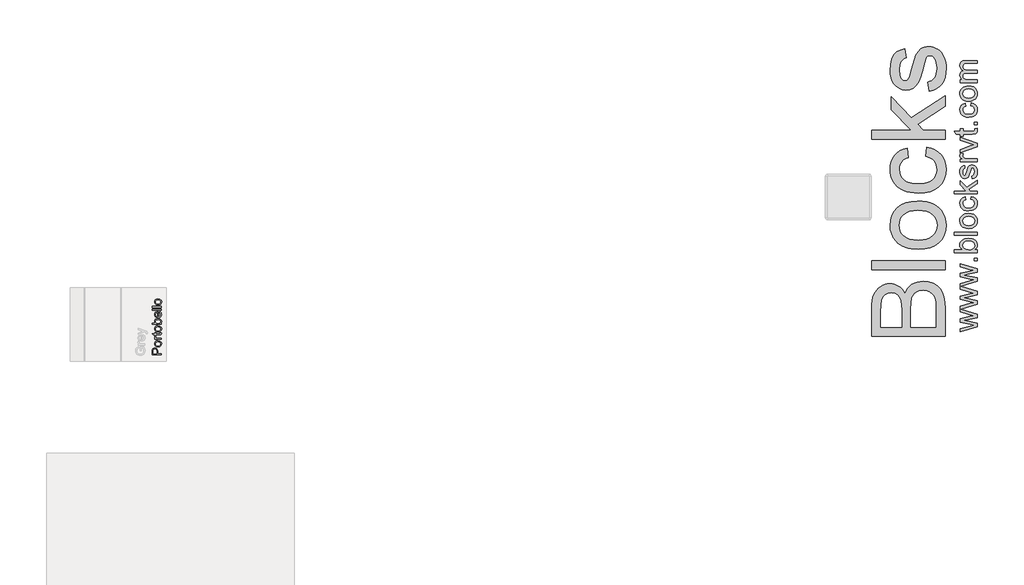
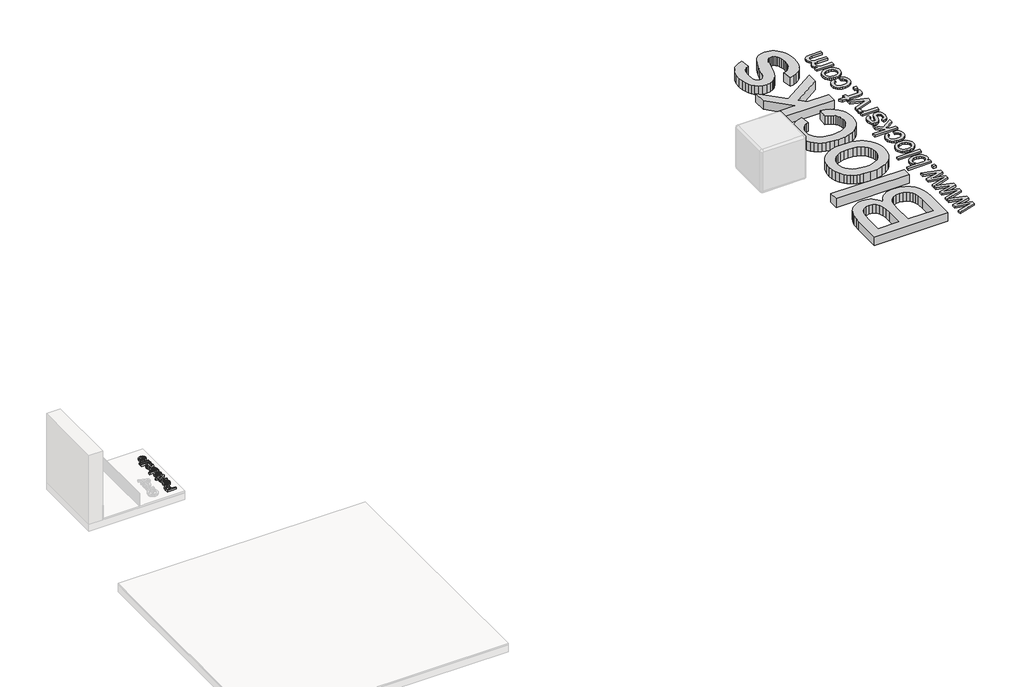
# One storey, part 8 of 8: 3 proxies.
"""IFC4 building model written with IfcOpenShell, lengths in millimetres."""

import ifcopenshell
import ifcopenshell.guid

model = None  # the IFC model being written
_history = None  # IfcOwnerHistory: only IFC2X3 demands one
_inside = {}  # id of a spatial element -> (the spatial element, [elements in it])
_under = {}  # id of a project, library or spatial element -> (it, [spatial elements below it])
_declared = {}  # id of a project -> (the project, [libraries it declares])
_typed = {}  # id of a type object -> (the type object, [elements of that type])
_made_of = {}  # id of a material, layer set ... -> (it, [elements and type objects made of it])


def new_model(schema):
    """Start an empty IFC model of exactly this schema.

    Asked for "IFC4X3", IfcOpenShell would pick the latest addendum, in which some entities
    have other attributes; the version numbers below select the first issue.
    IFC2X3 requires an IfcOwnerHistory on every rooted entity: one is made here for all.
    """
    global model, _history
    if schema == "IFC4X3":
        model = ifcopenshell.file(schema_version=(4, 3, 0, 0))
    else:
        model = ifcopenshell.file(schema=schema)
    _inside.clear()
    _under.clear()
    _declared.clear()
    _typed.clear()
    _made_of.clear()
    _history = None
    if model.schema == "IFC2X3":
        org = make("IfcOrganization", Name="unknown")
        user = make(
            "IfcPersonAndOrganization",
            ThePerson=make("IfcPerson", FamilyName="unknown"),
            TheOrganization=org,
        )
        app = make(
            "IfcApplication",
            ApplicationDeveloper=org,
            Version="unknown",
            ApplicationFullName="unknown",
            ApplicationIdentifier="unknown",
        )
        _history = make(
            "IfcOwnerHistory",
            OwningUser=user,
            OwningApplication=app,
            ChangeAction="ADDED",
            CreationDate=0,
        )
    return model


def make(cls, **values):
    """One entity of the class cls with the attributes given. An attribute that is None is left unset."""
    return model.create_entity(
        cls, **{name: value for name, value in values.items() if value is not None}
    )


def rooted(cls, **values):
    """An entity with a GlobalId (a new one), such as an element, a storey or a relation."""
    return make(cls, GlobalId=ifcopenshell.guid.new(), OwnerHistory=_history, **values)


def si_unit(unit_type, name, prefix=None):
    """IfcSIUnit, for example si_unit("LENGTHUNIT", "METRE", prefix="MILLI")."""
    return make("IfcSIUnit", UnitType=unit_type, Prefix=prefix, Name=name)


def assignment(units):
    """IfcUnitAssignment: the units of a project."""
    return None if units is None else make("IfcUnitAssignment", Units=units)


def point(xyz):
    """IfcCartesianPoint."""
    return None if xyz is None else make("IfcCartesianPoint", Coordinates=xyz)


def direction(xyz):
    """IfcDirection."""
    return None if xyz is None else make("IfcDirection", DirectionRatios=xyz)


def frame(location, z_axis=None, x_axis=None):
    """IfcAxis2Placement3D, a coordinate frame: its origin and axes. An axis left out is left unset."""
    return make(
        "IfcAxis2Placement3D",
        Location=point(location),
        Axis=direction(z_axis),
        RefDirection=direction(x_axis),
    )


def origin():
    """The frame at (0, 0, 0) with its axes left unset."""
    return frame((0.0, 0.0, 0.0))


def origin_with_axes():
    """The frame at (0, 0, 0) with the z axis (0, 0, 1) and the x axis (1, 0, 0) written out."""
    return frame((0.0, 0.0, 0.0), z_axis=(0.0, 0.0, 1.0), x_axis=(1.0, 0.0, 0.0))


def place(relative_to, where):
    """IfcLocalPlacement: puts the frame where relative to a parent placement (None: the world)."""
    return make(
        "IfcLocalPlacement", PlacementRelTo=relative_to, RelativePlacement=where
    )


def context(
    kind, dimensions, precision=None, world=None, true_north=None, identifier=None
):
    """IfcGeometricRepresentationContext, for example the 3D "Model" context."""
    return make(
        "IfcGeometricRepresentationContext",
        ContextIdentifier=identifier,
        ContextType=kind,
        CoordinateSpaceDimension=dimensions,
        Precision=precision,
        WorldCoordinateSystem=world,
        TrueNorth=true_north,
    )


def project(units=None, contexts=None):
    """IfcProject with its units and contexts."""
    return rooted(
        "IfcProject",
        Name="project",
        RepresentationContexts=contexts,
        UnitsInContext=assignment(units),
    )


def spatial(cls, under=None, at=None, **own):
    """A site, building, storey or space (cls), placed at a placement, below another one or the project."""
    s = rooted(cls, ObjectPlacement=at, **own)
    if under is not None:
        _under.setdefault(under.id(), (under, []))[1].append(s)
    return s


def polyline(points):
    """IfcPolyline through the points."""
    return make("IfcPolyline", Points=[point(p) for p in points])


def outline(outer, holes=None, kind="AREA"):
    """IfcArbitraryClosedProfileDef: a profile drawn as a closed curve; with holes, ...WithVoids."""
    if holes is None:
        return make("IfcArbitraryClosedProfileDef", ProfileType=kind, OuterCurve=outer)
    return make(
        "IfcArbitraryProfileDefWithVoids",
        ProfileType=kind,
        OuterCurve=outer,
        InnerCurves=holes,
    )


def extrude(swept, where, along, depth):
    """IfcExtrudedAreaSolid: the profile swept, set in the frame where, extruded along a direction by depth."""
    return make(
        "IfcExtrudedAreaSolid",
        SweptArea=swept,
        Position=where,
        ExtrudedDirection=direction(along),
        Depth=depth,
    )


def shape(context_of_items, identifier, shape_type, items):
    """IfcShapeRepresentation: the items that make up one representation, for example the "Body"."""
    return make(
        "IfcShapeRepresentation",
        ContextOfItems=context_of_items,
        RepresentationIdentifier=identifier,
        RepresentationType=shape_type,
        Items=items,
    )


def made_of(thing, what):
    """Note that an element or type object is made of a material, layer set ...; save() writes the relation."""
    if what is not None:
        _made_of.setdefault(what.id(), (what, []))[1].append(thing)
    return thing


def element(
    cls,
    number,
    at=None,
    inside=None,
    cuts=None,
    type_object=None,
    material=None,
    context=None,
    identifier="Body",
    shape_type=None,
    held_by="IfcProductDefinitionShape",
    body=None,
    shapes=None,
    **own,
):
    """One element of the class cls, such as IfcWall. Its Tag is "e" and its number.

    at: its placement. inside: the storey or other place that contains it. cuts: it is an
    opening in that element (IfcRelVoidsElement). A single representation is given by context,
    identifier, shape_type and body (its items); several are given by shapes. held_by: the class
    of the entity that holds the representations. save() writes the other relations.
    """
    e = rooted(cls, Tag="e%d" % number, ObjectPlacement=at, **own)
    if body is not None:
        shapes = [shape(context, identifier, shape_type, body)]
    if shapes is not None:
        e.Representation = make(held_by, Representations=shapes)
    if inside is not None:
        _inside.setdefault(inside.id(), (inside, []))[1].append(e)
    if cuts is not None:
        rooted(
            "IfcRelVoidsElement", RelatingBuildingElement=cuts, RelatedOpeningElement=e
        )
    if type_object is not None:
        _typed.setdefault(type_object.id(), (type_object, []))[1].append(e)
    return made_of(e, material)


def aggregate(whole, parts):
    """IfcRelAggregates: a whole, such as a stair, and the parts it consists of."""
    return rooted("IfcRelAggregates", RelatingObject=whole, RelatedObjects=parts)


def save(model, path):
    """Write the relations noted so far, then the file.

    IfcRelAggregates (storeys below a building ...), IfcRelContainedInSpatialStructure (elements
    in a storey), IfcRelDefinesByType, IfcRelAssociatesMaterial and IfcRelDeclares: one each for
    every whole, place, type object, material and project.
    """
    for whole, parts in _under.values():
        aggregate(whole, parts)
    for where, things in _inside.values():
        rooted(
            "IfcRelContainedInSpatialStructure",
            RelatedElements=things,
            RelatingStructure=where,
        )
    for kind, things in _typed.values():
        rooted("IfcRelDefinesByType", RelatedObjects=things, RelatingType=kind)
    for what, things in _made_of.values():
        rooted("IfcRelAssociatesMaterial", RelatedObjects=things, RelatingMaterial=what)
    for by, libraries in _declared.values():
        rooted("IfcRelDeclares", RelatingContext=by, RelatedDefinitions=libraries)
    model.write(path)


model = new_model("IFC4")

# Units and contexts
model_context = context("Model", 3, world=origin())
ifc_project = project(units=[si_unit("LENGTHUNIT", "METRE", prefix="MILLI")], contexts=[model_context])

# Site, building, storey
site = spatial("IfcSite", under=ifc_project)
building = spatial("IfcBuilding", under=site)
storey = spatial("IfcBuildingStorey", under=building, Name="PORTOBELLO - SHOWROOM", Elevation=0.0)

# Proxies
placement = place(None, origin())
element("IfcBuildingElementProxy", 1, Name="10mm Arial", ObjectType="10mm Arial", at=placement, inside=storey, context=model_context, shape_type="SweptSolid", body=[
    extrude(outline(polyline([(-4727.2594677, 9435.7402516), (-4827.7157778, 9435.7402516), (-4827.7157778, 9472.9699095), (-4826.7592846, 9487.9794949), (-4822.0626578, 9500.1809145), (-4812.3505732, 9508.0903773), (-4798.6531002, 9511.0824842), (-4786.8134313, 9509.062199), (-4776.9480625, 9503.0013431), (-4770.2893984, 9491.6675119), (-4768.0698437, 9473.8283009), (-4768.0698437, 9448.2972904), (-4727.2594677, 9448.2972904), (-4727.2594677, 9435.7402516)]), holes=[polyline([(-4780.6268824, 9448.2972904), (-4780.6268824, 9474.5640649), (-4785.2376701, 9493.0562665), (-4790.7865569, 9497.1581507), (-4798.2116418, 9498.5254455), (-4808.6104395, 9495.3003466), (-4814.3003477, 9486.826798), (-4815.158739, 9474.2697593), (-4815.158739, 9448.2972904), (-4780.6268824, 9448.2972904)])]), frame((0.0, 0.0, 18.0), z_axis=(0.0, 0.0, 1.0), x_axis=(1.0, 0.0, 0.0)), (0.0, 0.0, 1.0), 20.0),
    extrude(outline(polyline([(-4764.145769, 9523.639523), (-4781.9328635, 9526.3557184), (-4794.43472, 9534.5043046), (-4800.5599552, 9544.5720085), (-4802.6017003, 9556.6262752), (-4800.1154311, 9569.8179105), (-4792.6566237, 9580.3546639), (-4780.8138891, 9587.2616484), (-4765.1758386, 9589.5639765), (-4742.8331388, 9585.4927491), (-4730.1902609, 9573.6346862), (-4725.6898378, 9556.6262752), (-4728.1669099, 9543.2752245), (-4735.5981262, 9532.7507338), (-4747.6891811, 9525.9173257), (-4764.145769, 9523.639523)]), holes=[polyline([(-4764.1702945, 9536.1965618), (-4752.8058065, 9537.6496957), (-4744.709337, 9542.0090973), (-4739.8624917, 9548.5696596), (-4738.2468766, 9556.6262752), (-4739.8716887, 9564.6461027), (-4744.7461252, 9571.1944023), (-4752.9498937, 9575.5538039), (-4764.562702, 9577.0069378), (-4775.5960961, 9575.5446068), (-4783.5822011, 9571.1576141), (-4788.4290464, 9564.6001175), (-4790.0446615, 9556.6262752), (-4788.4351778, 9548.5696596), (-4783.6067266, 9542.0090973), (-4775.5286511, 9537.6496957), (-4764.1702945, 9536.1965618)])]), frame((0.0, 0.0, 18.0), z_axis=(0.0, 0.0, 1.0), x_axis=(1.0, 0.0, 0.0)), (0.0, 0.0, 1.0), 20.0),
    extrude(outline(polyline([(-4727.2594677, 9603.6906452), (-4801.0320704, 9603.6906452), (-4801.0320704, 9614.6780541), (-4790.1182379, 9614.6780541), (-4800.1736791, 9622.4771524), (-4802.6017003, 9630.3253016), (-4798.7266766, 9642.9313913), (-4787.4694875, 9638.7375366), (-4790.0446615, 9629.9083687), (-4787.5675894, 9622.8082462), (-4780.7004588, 9618.2832976), (-4766.03423, 9616.2476839), (-4727.2594677, 9616.2476839), (-4727.2594677, 9603.6906452)])), frame((0.0, 0.0, 18.0), z_axis=(0.0, 0.0, 1.0), x_axis=(1.0, 0.0, 0.0)), (0.0, 0.0, 1.0), 20.0),
    extrude(outline(polyline([(-4737.7318418, 9677.4632479), (-4726.8915857, 9679.0328778), (-4725.6898378, 9669.6396242), (-4727.7745025, 9659.1181991), (-4733.2436815, 9653.8697493), (-4747.4929774, 9652.3491704), (-4788.4750317, 9652.3491704), (-4788.4750317, 9642.9313913), (-4798.7266766, 9642.9313913), (-4801.0320704, 9642.9313913), (-4801.0320704, 9652.3491704), (-4818.9601863, 9652.3491704), (-4826.3423517, 9664.9062092), (-4801.0320704, 9664.9062092), (-4801.0320704, 9677.4632479), (-4788.4750317, 9677.4632479), (-4788.4750317, 9664.9062092), (-4747.8608594, 9664.9062092), (-4741.3861363, 9665.5683967), (-4739.0930052, 9667.7143751), (-4738.2468766, 9671.9940689), (-4737.7318418, 9677.4632479)])), frame((0.0, 0.0, 18.0), z_axis=(0.0, 0.0, 1.0), x_axis=(1.0, 0.0, 0.0)), (0.0, 0.0, 1.0), 20.0),
    extrude(outline(polyline([(-4764.145769, 9686.881027), (-4781.9328635, 9689.5972224), (-4794.43472, 9697.7458086), (-4800.5599552, 9707.8135125), (-4802.6017003, 9719.8677792), (-4800.1154311, 9733.0594144), (-4792.6566237, 9743.5961679), (-4780.8138891, 9750.5031524), (-4765.1758386, 9752.8054805), (-4742.8331388, 9748.7342531), (-4730.1902609, 9736.8761901), (-4725.6898378, 9719.8677792), (-4728.1669099, 9706.5167285), (-4735.5981262, 9695.9922378), (-4747.6891811, 9689.1588297), (-4764.145769, 9686.881027)]), holes=[polyline([(-4764.1702945, 9699.4380658), (-4752.8058065, 9700.8911997), (-4744.709337, 9705.2506013), (-4739.8624917, 9711.8111635), (-4738.2468766, 9719.8677792), (-4739.8716887, 9727.8876067), (-4744.7461252, 9734.4359062), (-4752.9498937, 9738.7953079), (-4764.562702, 9740.2484418), (-4775.5960961, 9738.7861108), (-4783.5822011, 9734.399118), (-4788.4290464, 9727.8416215), (-4790.0446615, 9719.8677792), (-4788.4351778, 9711.8111635), (-4783.6067266, 9705.2506013), (-4775.5286511, 9700.8911997), (-4764.1702945, 9699.4380658)])]), frame((0.0, 0.0, 18.0), z_axis=(0.0, 0.0, 1.0), x_axis=(1.0, 0.0, 0.0)), (0.0, 0.0, 1.0), 20.0),
    extrude(outline(polyline([(-4727.2594677, 9779.4891879), (-4727.2594677, 9766.9321492), (-4827.7157778, 9766.9321492), (-4827.7157778, 9779.4891879), (-4790.4615944, 9779.4891879), (-4799.5666738, 9788.2815676), (-4802.6017003, 9799.2076629), (-4799.8671108, 9811.7892271), (-4792.1783771, 9821.5503627), (-4780.2222122, 9827.5468392), (-4765.249415, 9829.717343), (-4748.4862588, 9827.4701971), (-4736.0150592, 9820.7287596), (-4728.2711432, 9810.8357996), (-4725.6898378, 9799.1340865), (-4729.0191699, 9787.9688679), (-4739.007166, 9779.4891879), (-4727.2594677, 9779.4891879)]), holes=[polyline([(-4764.6608038, 9779.4891879), (-4747.1005699, 9782.9227532), (-4740.4602999, 9789.5017096), (-4738.2468766, 9798.0549659), (-4739.8778201, 9805.3022413), (-4744.7706506, 9811.4949215), (-4752.8947114, 9815.7439585), (-4764.2193454, 9817.1603042), (-4775.7095264, 9815.8022065), (-4783.7416167, 9811.7279134), (-4788.4689003, 9805.7283712), (-4790.0446615, 9798.5945262), (-4788.413718, 9791.3472509), (-4783.5208875, 9785.1545706), (-4775.5439795, 9780.9055336), (-4764.6608038, 9779.4891879)])]), frame((0.0, 0.0, 18.0), z_axis=(0.0, 0.0, 1.0), x_axis=(1.0, 0.0, 0.0)), (0.0, 0.0, 1.0), 20.0),
    extrude(outline(polyline([(-4749.2342855, 9895.4946437), (-4747.6646557, 9907.8064278), (-4738.387898, 9903.3703841), (-4731.4533224, 9896.2917214), (-4727.130709, 9886.7298552), (-4725.6898378, 9874.8442011), (-4728.176107, 9860.1105272), (-4735.6349144, 9848.7736303), (-4747.5818822, 9841.5447491), (-4763.5326324, 9839.1351221), (-4780.0198771, 9841.5692746), (-4792.3500553, 9848.8717322), (-4800.038789, 9860.0553449), (-4802.6017003, 9874.1329625), (-4800.0449204, 9887.7721875), (-4792.3745808, 9898.6706916), (-4780.0689281, 9905.8167994), (-4763.6062088, 9908.1988353), (-4760.2216944, 9908.1252589), (-4760.2216944, 9851.6921608), (-4750.8223095, 9853.8657303), (-4743.9122593, 9858.9149107), (-4739.6632223, 9866.2020399), (-4738.2468766, 9875.0894557), (-4740.8711015, 9887.4012398), (-4749.2342855, 9895.4946437)]), holes=[polyline([(-4772.7787332, 9851.6921608), (-4772.7787332, 9895.6417965), (-4784.1585496, 9890.6140759), (-4788.5731335, 9883.2932242), (-4790.0446615, 9874.0839116), (-4785.3480347, 9858.6206051), (-4779.8573959, 9853.7553657), (-4772.7787332, 9851.6921608)])]), frame((0.0, 0.0, 18.0), z_axis=(0.0, 0.0, 1.0), x_axis=(1.0, 0.0, 0.0)), (0.0, 0.0, 1.0), 20.0),
    extrude(outline(polyline([(-4727.2594677, 9920.7558741), (-4827.7157778, 9920.7558741), (-4827.7157778, 9933.3129128), (-4727.2594677, 9933.3129128), (-4727.2594677, 9920.7558741)])), frame((0.0, 0.0, 18.0), z_axis=(0.0, 0.0, 1.0), x_axis=(1.0, 0.0, 0.0)), (0.0, 0.0, 1.0), 20.0),
    extrude(outline(polyline([(-4727.2594677, 9952.148471), (-4827.7157778, 9952.148471), (-4827.7157778, 9964.7055098), (-4727.2594677, 9964.7055098), (-4727.2594677, 9952.148471)])), frame((0.0, 0.0, 18.0), z_axis=(0.0, 0.0, 1.0), x_axis=(1.0, 0.0, 0.0)), (0.0, 0.0, 1.0), 20.0),
    extrude(outline(polyline([(-4764.145769, 9980.4018082), (-4781.9328635, 9983.1180036), (-4794.43472, 9991.2665898), (-4800.5599552, 10001.3342937), (-4802.6017003, 10013.3885605), (-4800.1154311, 10026.5801957), (-4792.6566237, 10037.1169491), (-4780.8138891, 10044.0239336), (-4765.1758386, 10046.3262618), (-4742.8331388, 10042.2550343), (-4730.1902609, 10030.3969714), (-4725.6898378, 10013.3885605), (-4728.1669099, 10000.0375097), (-4735.5981262, 9989.513019), (-4747.6891811, 9982.6796109), (-4764.145769, 9980.4018082)]), holes=[polyline([(-4764.1702945, 9992.958847), (-4752.8058065, 9994.4119809), (-4744.709337, 9998.7713825), (-4739.8624917, 10005.3319448), (-4738.2468766, 10013.3885605), (-4739.8716887, 10021.408388), (-4744.7461252, 10027.9566875), (-4752.9498937, 10032.3160891), (-4764.562702, 10033.769223), (-4775.5960961, 10032.3068921), (-4783.5822011, 10027.9198993), (-4788.4290464, 10021.3624027), (-4790.0446615, 10013.3885605), (-4788.4351778, 10005.3319448), (-4783.6067266, 9998.7713825), (-4775.5286511, 9994.4119809), (-4764.1702945, 9992.958847)])]), frame((0.0, 0.0, 18.0), z_axis=(0.0, 0.0, 1.0), x_axis=(1.0, 0.0, 0.0)), (0.0, 0.0, 1.0), 20.0),
])
element("IfcBuildingElementProxy", 2, Name="25mm Arial", ObjectType="25mm Arial", at=placement, inside=storey, context=model_context, shape_type="SweptSolid", body=[
    extrude(outline(polyline([(4168.4624087, 10236.0414216), (3990.4424262, 10181.6530028), (4168.4624087, 10127.0870374), (4168.4624087, 10089.1951919), (4060.3051021, 10065.0376075), (4026.5825859, 10058.0478496), (4168.4624087, 10026.961821), (4168.4624087, 9988.8247209), (3990.4424262, 9934.436302), (4168.4624087, 9879.8703366), (4168.4624087, 9841.9784911), (4060.3051021, 9817.8209068), (4026.5825859, 9810.8311489), (4168.4624087, 9779.7451203), (4168.4624087, 9741.6080201), (3984.0309018, 9685.2607612), (3984.0309018, 9717.8183178), (4091.6363854, 9749.701424), (4130.0800539, 9759.2050422), (4093.0465997, 9766.9918778), (3984.0309018, 9792.3144218), (3984.0309018, 9829.5931306), (4092.7400314, 9854.9156746), (4126.2786066, 9861.8441189), (4090.9006214, 9871.7769327), (3984.0309018, 9903.660039), (3984.0309018, 9932.4774619), (3984.0309018, 9936.4015366), (3984.0309018, 9965.0350185), (4091.6363854, 9996.9181248), (4130.0800539, 10006.421743), (4093.0465997, 10014.2085785), (3984.0309018, 10039.5311225), (3984.0309018, 10076.8098314), (4092.7400314, 10102.1323754), (4126.2786066, 10109.0608196), (4090.9006214, 10118.9936335), (3984.0309018, 10150.8767398), (3984.0309018, 10179.6941627), (3984.0309018, 10183.6182373), (3984.0309018, 10212.2517193), (4091.6363854, 10244.1348255), (4130.0800539, 10253.6384437), (4093.0465997, 10261.4252793), (3984.0309018, 10286.7478233), (3984.0309018, 10324.0265321), (4092.7400314, 10349.3490761), (4126.2786066, 10356.2775204), (4090.9006214, 10366.2103343), (3984.0309018, 10398.0934405), (3984.0309018, 10430.8349381), (4168.4624087, 10374.3037382), (4168.4624087, 10336.4118927), (4060.3051021, 10312.2543083), (4026.5825859, 10305.2645504), (4168.4624087, 10274.1785218), (4168.4624087, 10236.0414216)])), origin_with_axes(), (0.0, 0.0, 1.0), 20.0),
    extrude(outline(polyline([(4168.4624087, 10460.2654977), (4137.0698118, 10460.2654977), (4137.0698118, 10491.6580946), (4168.4624087, 10491.6580946), (4168.4624087, 10460.2654977)])), origin_with_axes(), (0.0, 0.0, 1.0), 20.0),
    extrude(outline(polyline([(4168.4624087, 10581.9118108), (4168.4624087, 10550.5192138), (3917.3216333, 10550.5192138), (3917.3216333, 10581.9118108), (4010.4570918, 10581.9118108), (3997.178851, 10592.2354993), (3987.6943933, 10603.89276), (3982.0037187, 10616.8835929), (3980.1068272, 10631.2079981), (3981.8159456, 10647.3794775), (3986.9433009, 10662.6619087), (3995.1669963, 10676.181572), (4006.1651352, 10687.0647477), (4036.0555473, 10702.055939), (4073.4875403, 10707.4821985), (4115.3954309, 10701.8643338), (4132.3256669, 10694.842003), (4146.57343, 10685.0107399), (4157.8666408, 10673.2097753), (4165.93322, 10660.2783399), (4170.7731675, 10646.2164339), (4172.3864833, 10631.0240571), (4170.3056508, 10616.2283031), (4164.0631532, 10603.1110107), (4153.6589905, 10591.67218), (4139.0931628, 10581.9118108), (4168.4624087, 10581.9118108)]), holes=[polyline([(4074.9590683, 10581.9118108), (4101.1400036, 10584.0577891), (4118.859653, 10590.495724), (4135.4603281, 10606.9431149), (4140.9938864, 10628.3262558), (4136.9165276, 10646.4444441), (4124.6844513, 10661.9261447), (4104.3742995, 10672.5487373), (4076.0627142, 10676.0896015), (4047.3372618, 10672.6943573), (4027.2570362, 10662.5086245), (4015.4388271, 10647.509769), (4011.4994241, 10629.6751565), (4015.5767829, 10611.5569682), (4027.8088592, 10596.0752676), (4047.751129, 10585.452675), (4074.9590683, 10581.9118108)])]), origin_with_axes(), (0.0, 0.0, 1.0), 20.0),
    extrude(outline(polyline([(4168.4624087, 10742.79887), (3917.3216333, 10742.79887), (3917.3216333, 10774.1914669), (4168.4624087, 10774.1914669), (4168.4624087, 10742.79887)])), origin_with_axes(), (0.0, 0.0, 1.0), 20.0),
    extrude(outline(polyline([(4076.2466552, 10813.4322131), (4052.3611503, 10815.1298352), (4031.7789191, 10820.2227016), (4014.4999616, 10828.7108122), (4000.5242779, 10840.594167), (3985.2111899, 10865.7634269), (3980.1068272, 10895.8990936), (3981.6607454, 10913.2182882), (3986.3225, 10928.8781817), (3994.0920911, 10942.8787741), (4004.9695187, 10955.2200654), (4018.5869007, 10965.292751), (4034.5763551, 10972.4875265), (4052.937882, 10976.8043918), (4073.6714813, 10978.2433469), (4105.3859749, 10975.6988298), (4129.5282309, 10968.0652784), (4147.6080981, 10955.5649547), (4161.1354256, 10938.4201209), (4169.5737189, 10918.0563197), (4172.3864833, 10895.8990936), (4170.8383133, 10878.3269802), (4166.1938031, 10862.5214668), (4158.4529527, 10848.4825534), (4147.6157623, 10836.2102399), (4133.8661727, 10826.2448532), (4117.388125, 10819.1267198), (4098.1816192, 10814.8558397), (4076.2466552, 10813.4322131)]), holes=[polyline([(4076.1853416, 10844.82481), (4104.5965615, 10848.4576447), (4124.8377354, 10859.3561488), (4136.9548487, 10875.7575544), (4140.9938864, 10895.8990936), (4136.931856, 10915.9486624), (4124.7457649, 10932.3194112), (4104.2363437, 10943.2179153), (4075.2043229, 10946.85075), (4047.6208375, 10943.1949227), (4027.655575, 10932.2274407), (4015.5384618, 10915.8336993), (4011.4994241, 10895.8990936), (4015.5231334, 10875.7575544), (4027.5942614, 10859.3561488), (4047.7894501, 10848.4576447), (4076.1853416, 10844.82481)])]), origin_with_axes(), (0.0, 0.0, 1.0), 20.0),
    extrude(outline(polyline([(4101.7531402, 11131.2822569), (4105.6772149, 11162.6748538), (4133.5979254, 11153.922328), (4154.6974907, 11137.4749371), (4167.9642352, 11114.8808513), (4172.3864833, 11087.6882405), (4170.8440614, 11070.0816381), (4166.2167957, 11054.2952852), (4158.5046862, 11040.3291817), (4147.7077328, 11028.1833277), (4134.0290372, 11018.3520646), (4117.6717007, 11011.3297338), (4076.9211056, 11005.7118692), (4048.9850666, 11008.1107664), (4024.7738328, 11015.3074579), (4005.2224375, 11027.4169069), (3991.2659144, 11044.5540765), (3982.896599, 11065.0558336), (3980.1068272, 11087.2590448), (3983.9389313, 11113.7848695), (3995.4352436, 11134.9917337), (4013.9826276, 11150.205187), (4038.9679464, 11158.7507792), (4042.892021, 11127.3581823), (4029.1960809, 11121.6636756), (4019.3782302, 11112.7961866), (4013.4691256, 11101.2462248), (4011.4994241, 11087.5042995), (4015.3775135, 11067.2171403), (4027.0117816, 11051.1146388), (4047.0306935, 11040.6070093), (4076.0627142, 11037.1044661), (4105.4856097, 11040.5303672), (4125.5734994, 11050.8080705), (4137.1387897, 11066.619332), (4140.9938864, 11086.6459081), (4138.587325, 11102.9016938), (4131.3676409, 11116.2297519), (4119.1508929, 11125.9249753), (4101.7531402, 11131.2822569)])), origin_with_axes(), (0.0, 0.0, 1.0), 20.0),
    extrude(outline(polyline([(4168.4624087, 11190.1433761), (3917.3216333, 11190.1433761), (3917.3216333, 11221.535973), (4052.2730119, 11221.535973), (3984.0309018, 11291.9240615), (3984.0309018, 11335.3341369), (4053.1314032, 11264.0263435), (4168.4624087, 11339.2582115), (4168.4624087, 11302.5926393), (4074.9590683, 11241.5242281), (4094.3955003, 11221.535973), (4168.4624087, 11221.535973), (4168.4624087, 11190.1433761)])), origin_with_axes(), (0.0, 0.0, 1.0), 20.0),
    extrude(outline(polyline([(4113.5253641, 11354.95451), (4109.6012895, 11386.3471069), (4123.0289823, 11391.2981854), (4132.9004825, 11400.8784457), (4138.9705354, 11415.1492014), (4140.9938864, 11434.1717663), (4139.139148, 11452.9644048), (4133.5749328, 11466.1774998), (4125.5121858, 11473.9949922), (4116.1618517, 11476.600823), (4108.1604183, 11473.9796638), (4102.0597086, 11466.1161862), (4093.1079134, 11433.8038843), (4077.7488401, 11386.5310479), (4070.0309824, 11374.5672188), (4059.8145928, 11365.8989993), (4047.751129, 11360.6336883), (4034.4920488, 11358.8785846), (4011.1008853, 11364.5194418), (3993.2279517, 11379.909172), (3983.9389313, 11399.8667702), (3980.1068272, 11426.87544), (3981.647333, 11447.3082192), (3986.2688506, 11465.0738539), (3993.5191916, 11479.359938), (4002.9461677, 11489.3540655), (4015.2472219, 11495.9759414), (4031.1197972, 11500.1452707), (4035.0438718, 11468.7526738), (4025.1647074, 11464.7902781), (4017.7227612, 11456.9497931), (4013.0552584, 11445.1545767), (4011.4994241, 11429.3279867), (4012.9862805, 11411.3017689), (4017.4468497, 11399.2842904), (4023.8847846, 11392.5244587), (4031.3037382, 11390.2711815), (4040.4394744, 11394.0113151), (4047.3679186, 11405.7222253), (4054.0511082, 11432.7615519), (4068.8277017, 11478.8387718), (4075.8941017, 11491.0095345), (4085.5663325, 11500.2372412), (4097.8750509, 11506.0543753), (4112.8509138, 11507.99342), (4128.3326144, 11505.7171501), (4142.89461, 11498.8883406), (4155.3949337, 11487.7675744), (4164.6916183, 11472.6154348), (4170.462767, 11454.3133055), (4172.3864833, 11433.7425706), (4168.6770065, 11402.0893906), (4157.5485762, 11378.989467), (4139.1238196, 11363.56908), (4113.5253641, 11354.95451)])), origin_with_axes(), (0.0, 0.0, 1.0), 20.0),
    extrude(outline(polyline([(4168.4624087, 11706.4044427), (3984.0309018, 11641.4119569), (3984.0309018, 11674.5826501), (4094.5181277, 11713.9460236), (4131.6742092, 11725.7795611), (4096.6027923, 11737.367844), (3984.0309018, 11776.9151584), (3984.0309018, 11810.1471653), (4168.4624087, 11746.0743845), (4168.4624087, 11706.4044427)])), origin_with_axes(), (0.0, 0.0, 1.0), 20.0),
    extrude(outline(polyline([(4168.4624087, 11543.3100915), (3984.0309018, 11543.3100915), (3984.0309018, 11570.7786138), (4011.3154831, 11570.7786138), (3995.4965573, 11580.9260255), (3986.1768801, 11590.2763595), (3980.1068272, 11609.8967326), (3982.528717, 11625.5317174), (3989.7943864, 11641.4119569), (4017.937359, 11630.92732), (4011.4994241, 11608.8544003), (4013.0475942, 11599.4810736), (4017.6921043, 11591.104094), (4034.8599308, 11579.7917227), (4071.525503, 11574.7026884), (4168.4624087, 11574.7026884), (4168.4624087, 11543.3100915)])), origin_with_axes(), (0.0, 0.0, 1.0), 20.0),
    extrude(outline(polyline([(4142.2814734, 11904.3249561), (4169.3821137, 11908.2490307), (4172.3864833, 11884.7658967), (4171.0835679, 11869.6980633), (4167.1748217, 11858.462334), (4153.5018742, 11845.3412095), (4117.8786344, 11841.5397623), (4015.4234987, 11841.5397623), (4015.4234987, 11817.9953146), (3984.0309018, 11817.9953146), (3984.0309018, 11841.5397623), (3939.210612, 11841.5397623), (3920.7551986, 11872.9323592), (3984.0309018, 11872.9323592), (3984.0309018, 11904.3249561), (4015.4234987, 11904.3249561), (4015.4234987, 11872.9323592), (4116.9589294, 11872.9323592), (4133.1457372, 11874.5878282), (4138.8785649, 11879.9527739), (4140.9938864, 11890.6520086), (4142.2814734, 11904.3249561)])), origin_with_axes(), (0.0, 0.0, 1.0), 20.0),
    extrude(outline(polyline([(4168.4624087, 11943.5657022), (4137.0698118, 11943.5657022), (4137.0698118, 11974.9582992), (4168.4624087, 11974.9582992), (4168.4624087, 11943.5657022)])), origin_with_axes(), (0.0, 0.0, 1.0), 20.0),
    extrude(outline(polyline([(4101.7531402, 12151.5416569), (4105.6772149, 12182.9342538), (4133.5979254, 12174.181728), (4154.6974907, 12157.7343371), (4167.9642352, 12135.1402512), (4172.3864833, 12107.9476404), (4170.8440614, 12090.3410381), (4166.2167957, 12074.5546852), (4158.5046862, 12060.5885817), (4147.7077328, 12048.4427277), (4134.0290372, 12038.6114646), (4117.6717007, 12031.5891338), (4076.9211056, 12025.9712692), (4048.9850666, 12028.3701663), (4024.7738328, 12035.5668579), (4005.2224375, 12047.6763069), (3991.2659144, 12064.8134765), (3982.896599, 12085.3152335), (3980.1068272, 12107.5184448), (3983.9389313, 12134.0442695), (3995.4352436, 12155.2511336), (4013.9826276, 12170.464587), (4038.9679464, 12179.0101792), (4042.892021, 12147.6175822), (4029.1960809, 12141.9230755), (4019.3782302, 12133.0555866), (4013.4691256, 12121.5056248), (4011.4994241, 12107.7636994), (4015.3775135, 12087.4765402), (4027.0117816, 12071.3740387), (4047.0306935, 12060.8664093), (4076.0627142, 12057.3638661), (4105.4856097, 12060.7897672), (4125.5734994, 12071.0674704), (4137.1387897, 12086.878732), (4140.9938864, 12106.9053081), (4138.587325, 12123.1610938), (4131.3676409, 12136.4891519), (4119.1508929, 12146.1843753), (4101.7531402, 12151.5416569)])), origin_with_axes(), (0.0, 0.0, 1.0), 20.0),
    extrude(outline(polyline([(4076.2466552, 12202.5546269), (4052.3611503, 12204.252249), (4031.7789191, 12209.3451153), (4014.4999616, 12217.833226), (4000.5242779, 12229.7165808), (3985.2111899, 12254.8858407), (3980.1068272, 12285.0215074), (3981.6607454, 12302.340702), (3986.3225, 12318.0005955), (3994.0920911, 12332.0011879), (4004.9695187, 12344.3424792), (4018.5869007, 12354.4151648), (4034.5763551, 12361.6099403), (4052.937882, 12365.9268056), (4073.6714813, 12367.3657607), (4105.3859749, 12364.8212436), (4129.5282309, 12357.1876922), (4147.6080981, 12344.6873685), (4161.1354256, 12327.5425347), (4169.5737189, 12307.1787334), (4172.3864833, 12285.0215074), (4170.8383133, 12267.449394), (4166.1938031, 12251.6438806), (4158.4529527, 12237.6049672), (4147.6157623, 12225.3326537), (4133.8661727, 12215.367267), (4117.388125, 12208.2491336), (4098.1816192, 12203.9782535), (4076.2466552, 12202.5546269)]), holes=[polyline([(4076.1853416, 12233.9472238), (4104.5965615, 12237.5800585), (4124.8377354, 12248.4785626), (4136.9548487, 12264.8799682), (4140.9938864, 12285.0215074), (4136.931856, 12305.0710762), (4124.7457649, 12321.441825), (4104.2363437, 12332.3403291), (4075.2043229, 12335.9731638), (4047.6208375, 12332.3173364), (4027.655575, 12321.3498545), (4015.5384618, 12304.9561131), (4011.4994241, 12285.0215074), (4015.5231334, 12264.8799682), (4027.5942614, 12248.4785626), (4047.7894501, 12237.5800585), (4076.1853416, 12233.9472238)])]), origin_with_axes(), (0.0, 0.0, 1.0), 20.0),
    extrude(outline(polyline([(4168.4624087, 12402.6824322), (3984.0309018, 12402.6824322), (3984.0309018, 12434.0750291), (4014.3811664, 12434.0750291), (4000.4399716, 12443.5173337), (3989.5184749, 12455.6574395), (3982.4597391, 12470.0814794), (3980.1068272, 12486.3755861), (3982.5057243, 12503.8346525), (3989.7024159, 12517.8294967), (4001.2217209, 12528.2834767), (4016.5884584, 12535.1199505), (4000.6277447, 12546.5626134), (3989.227235, 12559.61476), (3982.3869291, 12574.2763904), (3980.1068272, 12590.5475044), (3983.9006102, 12614.1456016), (3995.2819595, 12631.5970037), (4014.5574432, 12642.3805447), (4042.0336297, 12645.9750584), (4168.4624087, 12645.9750584), (4168.4624087, 12614.5824614), (4055.5226362, 12614.5824614), (4029.311044, 12611.6700623), (4016.4045174, 12601.1241118), (4011.4994241, 12583.1898645), (4014.6417495, 12566.1829865), (4024.0687256, 12552.3184338), (4040.424146, 12543.0983913), (4064.3518041, 12540.0250438), (4168.4624087, 12540.0250438), (4168.4624087, 12508.6324468), (4052.0277572, 12508.6324468), (4034.277451, 12506.8160295), (4021.616179, 12501.3667774), (4014.0286128, 12491.7788529), (4011.4994241, 12477.5464182), (4013.1855499, 12465.4522977), (4018.2439273, 12454.3085389), (4026.5519291, 12445.111489), (4037.9869277, 12438.8574951), (4075.4495776, 12434.0750291), (4168.4624087, 12434.0750291), (4168.4624087, 12402.6824322)])), origin_with_axes(), (0.0, 0.0, 1.0), 20.0),
])
element("IfcBuildingElementProxy", 3, Name="80mm Arial", ObjectType="80mm Arial", at=placement, inside=storey, context=model_context, shape_type="SweptSolid", body=[
    extrude(outline(polyline([(3819.018986, 9638.0635374), (3019.6302877, 9638.0635374), (3019.6302877, 9943.1037072), (3021.100111, 9987.3508767), (3025.5095808, 10026.9995121), (3032.8586972, 10062.0496131), (3043.1474601, 10092.50118), (3056.4856489, 10119.1287668), (3072.9830429, 10142.7069277), (3092.6396422, 10163.2356628), (3115.4554466, 10180.7149719), (3140.1435985, 10194.6752436), (3165.4172402, 10204.6468662), (3191.2763717, 10210.6298398), (3217.720993, 10212.6241643), (3242.1468943, 10210.9469801), (3265.8531311, 10205.9154274), (3288.8397034, 10197.5295062), (3311.1066112, 10185.7892166), (3331.9585854, 10170.6579654), (3350.7003568, 10152.0991594), (3367.3319256, 10130.1127988), (3381.8532916, 10104.6988835), (3394.7096711, 10134.8577055), (3411.420525, 10161.3206233), (3431.9858531, 10184.0876369), (3456.4056556, 10203.1587464), (3483.9358724, 10218.2290091), (3513.8324438, 10228.9934825), (3546.0953696, 10235.4521665), (3580.7246499, 10237.6050612), (3636.4681551, 10231.7257681), (3688.1620226, 10214.0878888), (3732.1225461, 10187.7652445), (3764.6660191, 10155.8316567), (3788.2319823, 10116.7258192), (3805.2599765, 10068.886426), (3815.5792336, 10010.752171), (3819.018986, 9940.7617481), (3819.018986, 9638.0635374)]), holes=[polyline([(3344.3819464, 9737.9871247), (3344.3819464, 9920.4647695), (3342.2351506, 9984.2831543), (3335.7947631, 10027.0239075), (3320.986751, 10064.3244849), (3298.811326, 10091.1350372), (3269.6100238, 10107.3091921), (3233.72438, 10112.700577), (3198.8877387, 10107.6751232), (3168.5398524, 10092.5987616), (3144.8519121, 10068.1545638), (3129.9951092, 10035.025601), (3122.1641835, 9984.1855727), (3119.553875, 9906.6081783), (3119.553875, 9737.9871247), (3344.3819464, 9737.9871247)]), polyline([(3719.0953987, 9737.9871247), (3719.0953987, 9942.9085439), (3715.1921336, 10017.0705814), (3706.5317641, 10051.4925007), (3693.4314305, 10079.8155683), (3674.6713625, 10102.8448326), (3649.0317897, 10121.385342), (3617.6592962, 10133.6074409), (3581.7004662, 10137.6814739), (3539.9355293, 10132.8999741), (3504.0254902, 10118.5554747), (3488.7600642, 10107.5104542), (3475.9463766, 10093.5013917), (3465.5844275, 10076.5282872), (3457.6742168, 10056.5911408), (3447.6477045, 10004.3117835), (3444.3055337, 9933.1503811), (3444.3055337, 9737.9871247), (3719.0953987, 9737.9871247)])]), origin_with_axes(), (0.0, 0.0, 1.0), 100.0),
    extrude(outline(polyline([(3819.018986, 10362.5095453), (3019.6302877, 10362.5095453), (3019.6302877, 10462.4331326), (3819.018986, 10462.4331326), (3819.018986, 10362.5095453)])), origin_with_axes(), (0.0, 0.0, 1.0), 100.0),
    extrude(outline(polyline([(3525.4934484, 10587.3376167), (3449.4651623, 10592.7411993), (3415.3939269, 10599.4956777), (3383.9512966, 10608.9519473), (3355.1372715, 10621.1100083), (3328.9518514, 10635.9698606), (3305.3950365, 10653.5315043), (3284.4668267, 10673.7949393), (3256.0339797, 10711.8761697), (3235.7248034, 10753.909456), (3223.5392976, 10799.8947983), (3219.4774623, 10849.8321966), (3224.4236311, 10904.9597177), (3239.2621374, 10954.8056331), (3263.9929813, 10999.369943), (3298.6161628, 11038.6526472), (3341.9607022, 11070.7143109), (3392.8556202, 11093.6154993), (3451.3009167, 11107.3562123), (3517.2965916, 11111.93645), (3570.7835216, 11109.9116312), (3618.244786, 11103.8371748), (3659.6803849, 11093.7130809), (3695.0903182, 11079.5393494), (3725.6760598, 11061.492847), (3752.6390834, 11039.7504405), (3775.9793891, 11014.3121298), (3795.6969769, 10985.1779149), (3811.3649271, 10953.4821823), (3822.5563201, 10920.3593184), (3829.2711559, 10885.8093231), (3831.5094344, 10849.8321966), (3826.5815622, 10793.8996271), (3811.7979455, 10743.5901989), (3787.1585844, 10698.903912), (3752.6634788, 10659.8407664), (3708.8981186, 10628.1206384), (3656.4479934, 10605.4634041), (3595.3131034, 10591.8690635), (3525.4934484, 10587.3376167)]), holes=[polyline([(3525.2982851, 10687.261204), (3573.7658601, 10690.1520597), (3615.7320591, 10698.8246269), (3651.1968821, 10713.2789056), (3680.1603291, 10733.5148958), (3702.6589932, 10758.1298615), (3718.7294676, 10785.7210668), (3728.3717523, 10816.2885119), (3731.5858472, 10849.8321966), (3728.3534557, 10883.2051134), (3718.6562814, 10913.6505814), (3702.4943242, 10941.1686006), (3679.8675842, 10965.7591709), (3650.6174911, 10985.9951611), (3614.5854749, 11000.4494397), (3571.7715355, 11009.1220069), (3522.175673, 11012.0128627), (3475.2450087, 11009.1037104), (3434.376603, 11000.3762535), (3399.570456, 10985.8304921), (3370.8265676, 10965.466426), (3348.3279035, 10940.7843729), (3332.2574291, 10913.2846503), (3322.6151445, 10882.9672582), (3319.4010496, 10849.8321966), (3322.6029467, 10816.2885119), (3332.2086383, 10785.7210668), (3348.2181242, 10758.1298615), (3370.6314044, 10733.5148958), (3399.5094675, 10713.2789056), (3434.913302, 10698.8246269), (3476.8429078, 10690.1520597), (3525.2982851, 10687.261204)])]), origin_with_axes(), (0.0, 0.0, 1.0), 100.0),
    extrude(outline(polyline([(3606.681363, 11599.063938), (3619.1718115, 11698.9875253), (3666.3220344, 11688.1193715), (3708.0442793, 11671.1279705), (3744.3385462, 11648.0133223), (3775.204835, 11618.7754269), (3799.8380972, 11584.6462525), (3817.4332846, 11546.8577669), (3827.990397, 11505.4099703), (3831.5094344, 11460.3028627), (3826.5998588, 11404.2605138), (3811.8711318, 11354.0120742), (3787.3232534, 11309.5575437), (3752.9562237, 11270.8969223), (3709.416521, 11239.6037139), (3657.3506235, 11217.2514222), (3596.7585312, 11203.8400472), (3527.6402442, 11199.3695889), (3481.6975938, 11201.2785295), (3438.7189855, 11207.0053513), (3398.7044191, 11216.5500543), (3361.6538946, 11229.9126385), (3328.311472, 11247.1845867), (3299.4212112, 11268.4573816), (3274.9831122, 11293.7310233), (3254.9971749, 11323.0055118), (3239.4573007, 11354.9573962), (3228.3573904, 11388.2632257), (3221.6974443, 11422.9230002), (3219.4774623, 11458.9367199), (3222.5268882, 11503.2692734), (3231.6751658, 11543.3692237), (3246.9222952, 11579.2365709), (3268.2682764, 11610.871315), (3295.2252012, 11637.7367571), (3327.3051615, 11659.296198), (3364.5081572, 11675.549638), (3406.8341885, 11686.4970769), (3419.3246369, 11586.5734896), (3395.9843312, 11578.7730582), (3375.7300445, 11568.4477022), (3358.5617767, 11555.5974215), (3344.479528, 11540.2222162), (3333.5076937, 11522.7124128), (3325.6706692, 11503.4583378), (3320.9684545, 11482.4599912), (3319.4010496, 11459.7173729), (3322.4870686, 11425.7650652), (3331.7451255, 11395.1427305), (3347.1752205, 11367.8503688), (3368.7773534, 11343.8879802), (3397.0516302, 11324.3777534), (3432.4981567, 11310.4418772), (3475.1169328, 11302.0803514), (3524.9079586, 11299.2931761), (3575.4491432, 11302.0193629), (3618.5619263, 11310.1979231), (3654.2463079, 11323.8288568), (3682.5022882, 11342.912164), (3703.9763452, 11366.3988421), (3719.3149574, 11393.2398887), (3728.5181247, 11423.4353038), (3731.5858472, 11456.9850873), (3729.6708077, 11484.0212972), (3723.9256893, 11508.7277457), (3714.3504921, 11531.1044328), (3700.9452159, 11551.1513586), (3683.5634884, 11568.3074286), (3662.0589371, 11582.0115485), (3636.4315619, 11592.2637183), (3606.681363, 11599.063938)])), origin_with_axes(), (0.0, 0.0, 1.0), 100.0),
    extrude(outline(polyline([(3819.018986, 11786.4206642), (3019.6302877, 11786.4206642), (3019.6302877, 11886.3442515), (3449.1846151, 11886.3442515), (3231.9679107, 12110.3916699), (3231.9679107, 12248.5672554), (3451.9169007, 12021.5923882), (3819.018986, 12261.0577038), (3819.018986, 12144.3500765), (3521.39502, 11949.9674731), (3583.2617723, 11886.3442515), (3819.018986, 11886.3442515), (3819.018986, 11786.4206642)])), origin_with_axes(), (0.0, 0.0, 1.0), 100.0),
    extrude(outline(polyline([(3644.1527083, 12311.0194975), (3631.6622599, 12410.9430848), (3654.4475701, 12416.980948), (3674.403013, 12426.7025177), (3691.5285888, 12440.1077939), (3705.8242973, 12457.1967766), (3717.0949754, 12478.0182565), (3725.1454597, 12502.6210245), (3729.9757503, 12531.0050806), (3731.5858472, 12563.1704248), (3730.109925, 12595.2991759), (3725.6821586, 12622.9879629), (3718.302548, 12646.2367858), (3707.9710931, 12665.0456446), (3695.6514126, 12679.5609118), (3682.3071249, 12689.9289598), (3667.9382302, 12696.1497886), (3652.5447283, 12698.2233982), (3639.0540682, 12696.1375909), (3627.0759233, 12689.880169), (3616.6102937, 12679.4511325), (3607.6571793, 12664.8504814), (3594.9715677, 12627.427927), (3579.1633439, 12561.9994453), (3552.7919089, 12470.8094137), (3530.2749481, 12411.5285745), (3505.7087732, 12373.4473441), (3490.4433473, 12358.3404883), (3473.1896956, 12345.8561388), (3434.7913249, 12329.0964941), (3392.5872707, 12323.5099459), (3353.8717597, 12327.9987008), (3318.1324884, 12341.4649655), (3286.7843903, 12362.6889696), (3261.2423992, 12390.4509429), (3245.1658259, 12418.0421482), (3231.6751658, 12453.9765828), (3222.5268882, 12495.521961), (3219.4774623, 12539.9459973), (3224.3809391, 12604.9841525), (3239.0913696, 12661.532706), (3262.1694246, 12707.0057448), (3276.306563, 12724.6192287), (3292.1757753, 12738.8173556), (3331.3304036, 12759.8949873), (3381.8532916, 12773.1660887), (3394.34374, 12673.2425014), (3377.6511828, 12668.4792982), (3362.8980603, 12660.630076), (3350.0843728, 12649.6948348), (3339.2101201, 12635.6735746), (3330.5436517, 12618.5053068), (3324.3533172, 12598.1290431), (3319.4010496, 12547.7525275), (3324.1337585, 12490.3745301), (3330.0496448, 12468.8577811), (3338.3318854, 12452.1225319), (3358.8240274, 12430.6057829), (3370.2410779, 12425.2265956), (3382.4387814, 12423.4335332), (3397.8078878, 12426.4097728), (3411.5181066, 12435.3384918), (3423.7646009, 12450.6100166), (3433.5715546, 12472.6146738), (3454.8443495, 12558.6816699), (3480.9474351, 12646.968648), (3501.8786943, 12705.3468571), (3524.3712596, 12744.0867635), (3555.1582633, 12773.4588336), (3573.686575, 12784.2599001), (3594.3372871, 12791.9749476), (3617.1103996, 12796.603976), (3642.0059125, 12798.1469855), (3667.0112047, 12796.3356266), (3691.2846347, 12790.9015496), (3714.8262025, 12781.8447548), (3737.6359081, 12769.165242), (3758.8050226, 12753.0703722), (3777.424817, 12733.7675063), (3793.4952914, 12711.2566445), (3807.0164458, 12685.5377866), (3817.7321283, 12657.3123006), (3825.3861873, 12627.2815545), (3829.9786227, 12595.4455483), (3831.5094344, 12561.804282), (3828.5575902, 12508.0246071), (3819.7020574, 12461.0512509), (3804.9428362, 12420.8842132), (3784.2799264, 12387.523494), (3757.8109097, 12360.2738243), (3725.6333678, 12338.439935), (3687.7473007, 12322.0218261), (3644.1527083, 12311.0194975)])), origin_with_axes(), (0.0, 0.0, 1.0), 100.0),
])

save(model, "model.ifc")
